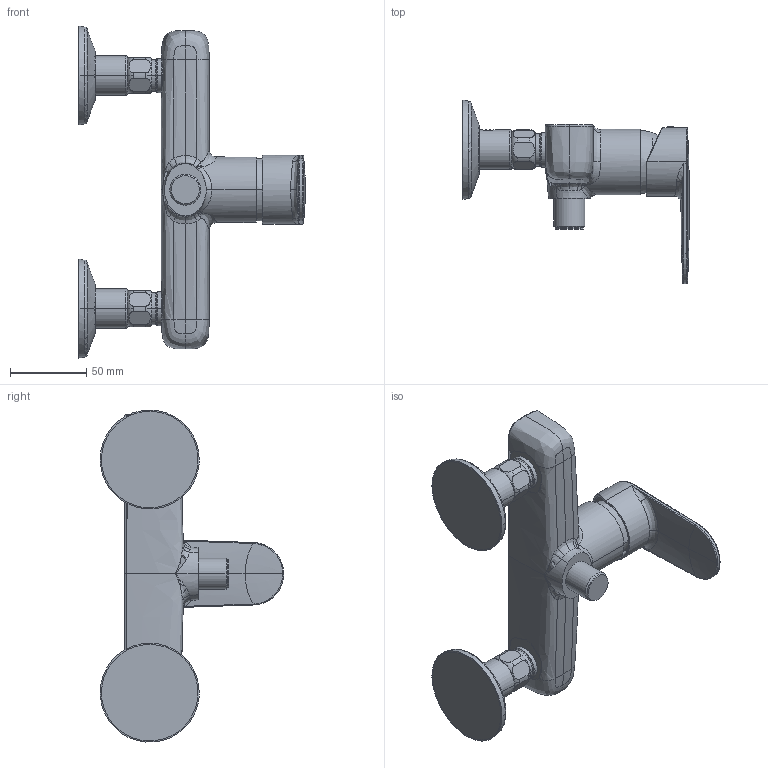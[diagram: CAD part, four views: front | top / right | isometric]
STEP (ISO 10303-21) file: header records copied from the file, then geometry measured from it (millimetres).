
FILE_DESCRIPTION((''),'2;1');
FILE_NAME('21_382_010_XXX','2018-02-20T',('ES997'),(''),'CREO PARAMETRIC BY PTC INC, 2016260','CREO PARAMETRIC BY PTC INC, 2016260','');
FILE_SCHEMA(('CONFIG_CONTROL_DESIGN'));
Length unit declared in the file: millimetre
Products named in the file (1): 21_382_010_XXX
Bounding box: 148.64 x 120.45 x 217.88 mm (x, y, z)
Volume: 439987.6 mm3; surface area: 70918.6 mm2
Topology: 2 solids, 2 shells, 388 faces, 1004 edges, 638 vertices
Faces by surface type: plane 114, cylinder 87, bspline 85, torus 61, cone 35, sphere 6
Entity records: 23955 total; most frequent: CARTESIAN_POINT 15247, ORIENTED_EDGE 1996, DIRECTION 1567, EDGE_CURVE 998, AXIS2_PLACEMENT_3D 655, VERTEX_POINT 638, EDGE_LOOP 412, B_SPLINE_CURVE_WITH_KNOTS 389
